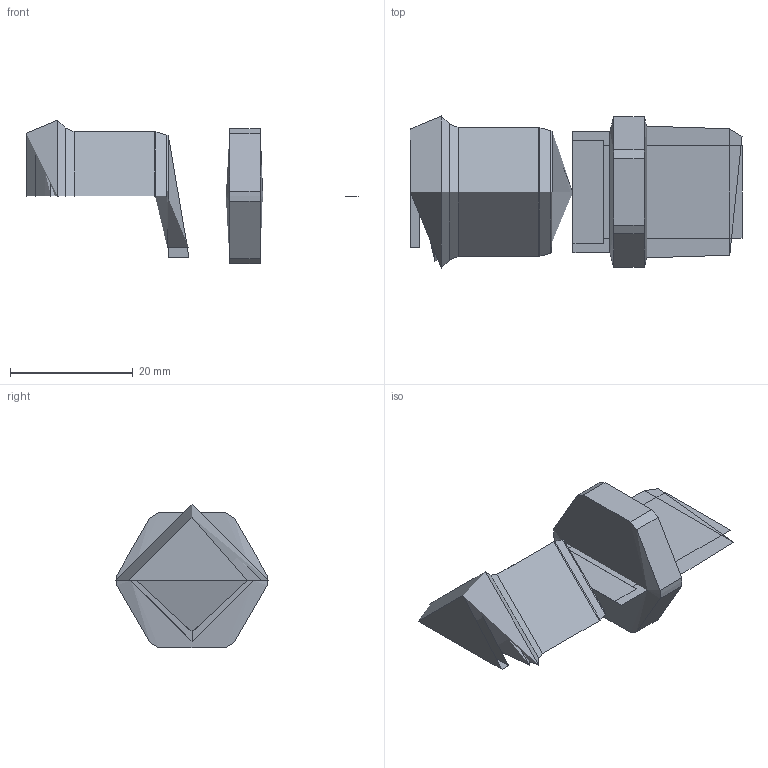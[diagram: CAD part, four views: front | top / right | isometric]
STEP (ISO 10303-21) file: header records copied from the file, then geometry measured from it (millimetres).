
FILE_DESCRIPTION(('FreeCAD Model'),'2;1');
FILE_NAME('Open CASCADE Shape Model','2025-10-20T15:01:35',('Author'),( ''),'Open CASCADE STEP processor 7.8','FreeCAD','Unknown');
FILE_SCHEMA(('AUTOMOTIVE_DESIGN { 1 0 10303 214 1 1 1 1 }'));
Length unit declared in the file: millimetre
Products named in the file (7): Unnamed169; COMPOUND; COMPOUND001; X-Achse; XY-Ebene; COMPOUND002; COMPOUND003
Assembly tree (18 placements, depth 3):
  Unnamed169
    COMPOUND
    COMPOUND001
      COMPOUND
    X-Achse  x6
    XY-Ebene  x6
    COMPOUND002
    COMPOUND003
      COMPOUND002
Bounding box: 54 x 24.74 x 23.37 mm (x, y, z)
Volume: 14571.4 mm3; surface area: 14857.2 mm2
Topology: 4 solids, 4 shells, 80 faces, 250 edges, 176 vertices
Faces by surface type: bspline 80
Entity records: 1969 total; most frequent: CARTESIAN_POINT 1112, ORIENTED_EDGE 244, EDGE_CURVE 122, VERTEX_POINT 88, FACE_BOUND 46, EDGE_LOOP 46, ADVANCED_FACE 40, DIRECTION 39
